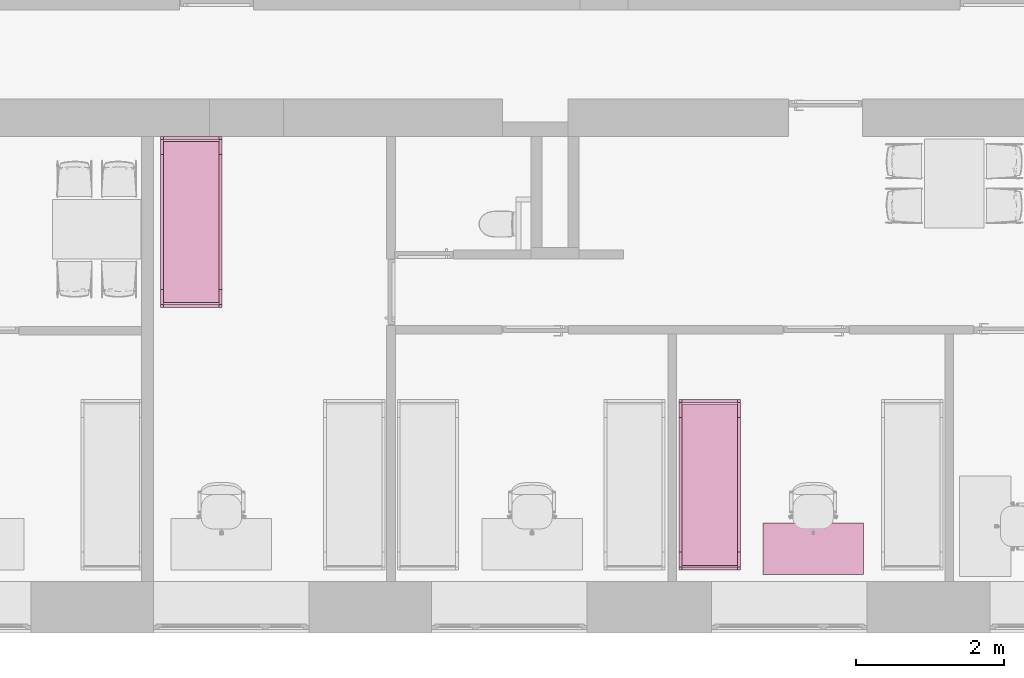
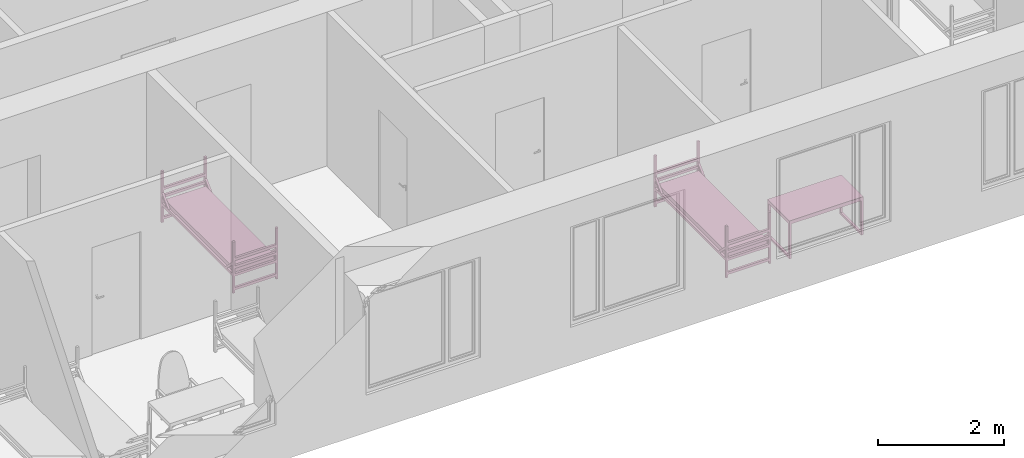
# One storey, part 30 of 46: 3 furnishings.
"""IFC2X3 building model written with IfcOpenShell, lengths in millimetres."""

from ifc_helpers import new_model, entity, si_unit, converted_unit, derived_unit, direction, frame, frame_2d, origin, place, context, subcontext, project, spatial, polyline, circle_curve, parameter, trimmed, segment, composite_curve, rectangle, outline, extrude, faceted_brep, source, transform, mapped, material, material_list, type_object, type_shapes, element, save


model = new_model("IFC2X3")

# Units and contexts
model_context = context("Model", 3, precision=0.01, world=origin(), true_north=direction((6.12303176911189e-17, 1.0)))
body_context = subcontext(model_context, "Body", "Model", "MODEL_VIEW")
ifc_project = project(units=[si_unit("LENGTHUNIT", "METRE", prefix="MILLI"), si_unit("AREAUNIT", "SQUARE_METRE"), si_unit("VOLUMEUNIT", "CUBIC_METRE"), converted_unit("PLANEANGLEUNIT", "DEGREE", entity("IfcRatioMeasure", 0.0174532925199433), si_unit("PLANEANGLEUNIT", "RADIAN"), dimensions=[0, 0, 0, 0, 0, 0, 0]), si_unit("MASSUNIT", "GRAM", prefix="KILO"), derived_unit("MASSDENSITYUNIT", [(si_unit("MASSUNIT", "GRAM", prefix="KILO"), 1), (si_unit("LENGTHUNIT", "METRE"), -3)]), si_unit("TIMEUNIT", "SECOND"), si_unit("FREQUENCYUNIT", "HERTZ"), si_unit("THERMODYNAMICTEMPERATUREUNIT", "DEGREE_CELSIUS"), derived_unit("THERMALTRANSMITTANCEUNIT", [(si_unit("MASSUNIT", "GRAM", prefix="KILO"), 1), (si_unit("THERMODYNAMICTEMPERATUREUNIT", "KELVIN"), -1), (si_unit("TIMEUNIT", "SECOND"), -3)]), derived_unit("VOLUMETRICFLOWRATEUNIT", [(si_unit("LENGTHUNIT", "METRE"), 3), (si_unit("TIMEUNIT", "SECOND"), -1)]), si_unit("ELECTRICCURRENTUNIT", "AMPERE"), si_unit("ELECTRICVOLTAGEUNIT", "VOLT"), si_unit("POWERUNIT", "WATT"), si_unit("FORCEUNIT", "NEWTON", prefix="KILO"), si_unit("ILLUMINANCEUNIT", "LUX"), si_unit("LUMINOUSFLUXUNIT", "LUMEN"), si_unit("LUMINOUSINTENSITYUNIT", "CANDELA"), derived_unit("USERDEFINED", [(si_unit("MASSUNIT", "GRAM", prefix="KILO"), -1), (si_unit("LENGTHUNIT", "METRE"), -2), (si_unit("TIMEUNIT", "SECOND"), 3), (si_unit("LUMINOUSFLUXUNIT", "LUMEN"), 1)]), derived_unit("LINEARVELOCITYUNIT", [(si_unit("LENGTHUNIT", "METRE"), 1), (si_unit("TIMEUNIT", "SECOND"), -1)]), si_unit("PRESSUREUNIT", "PASCAL"), derived_unit("USERDEFINED", [(si_unit("LENGTHUNIT", "METRE"), -2), (si_unit("MASSUNIT", "GRAM", prefix="KILO"), 1), (si_unit("TIMEUNIT", "SECOND"), -2)]), derived_unit("LINEARFORCEUNIT", [(si_unit("MASSUNIT", "GRAM", prefix="KILO"), 1), (si_unit("LENGTHUNIT", "METRE"), 1), (si_unit("TIMEUNIT", "SECOND"), -2), (si_unit("LENGTHUNIT", "METRE"), -1)]), derived_unit("PLANARFORCEUNIT", [(si_unit("MASSUNIT", "GRAM", prefix="KILO"), 1), (si_unit("LENGTHUNIT", "METRE"), 1), (si_unit("TIMEUNIT", "SECOND"), -2), (si_unit("LENGTHUNIT", "METRE"), -2)])], contexts=[model_context])

# Site, building, storey, space
site_placement = place(None, origin())
site = spatial("IfcSite", under=ifc_project, at=site_placement, Name="Default", CompositionType="ELEMENT")
building_placement = place(site_placement, origin())
building = spatial("IfcBuilding", under=site, at=building_placement, Name="SMA ARH", CompositionType="ELEMENT")
storey_placement = place(building_placement, frame((0.0, 0.0, 9910.0)))
storey = spatial("IfcBuildingStorey", under=building, at=storey_placement, Name="4 Korrus", CompositionType="ELEMENT", Elevation=9909.9999999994)
space_1_placement = place(storey_placement, origin())
space_1 = spatial("IfcSpace", under=storey, at=space_1_placement, Name="4-7", CompositionType="ELEMENT", InteriorOrExteriorSpace="INTERNAL")

# Furnishing
ifc_material_1 = material(Name="Madrats")
furniture_type_1 = type_object("IfcFurnitureType", Name="Kasarmu voodi ühekordne 2308x830:Kasarmu voodi ühekordne 2308x830", material=ifc_material_1)
shared_shape_1 = source(origin(), body_context, "Body", "SweptSolid", [
    extrude(rectangle(XDim=39.9999999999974, YDim=750.000000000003, at=frame_2d((-1.35003119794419e-13, -2.8421709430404e-14), x_axis=(1.0, 0.0))), frame((1.68638457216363, -1226.7969571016, 55.0), z_axis=(0.0, 0.0, 1.0), x_axis=(0.0, -1.0, 0.0)), (0.0, 0.0, 1.0), 49.9999999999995),
    extrude(rectangle(XDim=39.9999999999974, YDim=750.000000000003, at=frame_2d((-1.35003119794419e-13, -2.8421709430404e-14), x_axis=(1.0, 0.0))), frame((1.68638457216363, -1226.7969571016, 325.0), z_axis=(0.0, 0.0, 1.0), x_axis=(0.0, -1.0, 0.0)), (0.0, 0.0, 1.0), 49.9999999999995),
    extrude(rectangle(XDim=39.9999999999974, YDim=750.000000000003, at=frame_2d((-1.35003119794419e-13, -2.8421709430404e-14), x_axis=(1.0, 0.0))), frame((1.68638457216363, -1226.7969571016, 475.0), z_axis=(0.0, 0.0, 1.0), x_axis=(0.0, -1.0, 0.0)), (0.0, 0.0, 1.0), 49.9999999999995),
    extrude(rectangle(XDim=39.9999999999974, YDim=750.000000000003, at=frame_2d((-1.35003119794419e-13, -2.8421709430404e-14), x_axis=(1.0, 0.0))), frame((1.68638457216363, -1226.7969571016, 625.0), z_axis=(0.0, 0.0, 1.0), x_axis=(0.0, -1.0, 0.0)), (0.0, 0.0, 1.0), 50.0000000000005),
    extrude(rectangle(XDim=39.9999999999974, YDim=750.000000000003, at=frame_2d((1.35003119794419e-13, -2.8421709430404e-14), x_axis=(1.0, 0.0))), frame((1.68638457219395, 1041.2030428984, 55.0), z_axis=(0.0, 0.0, 1.0), x_axis=(0.0, -1.0, 0.0)), (0.0, 0.0, 1.0), 50.0000000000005),
    extrude(rectangle(XDim=39.9999999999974, YDim=750.000000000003, at=frame_2d((1.35003119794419e-13, -2.8421709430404e-14), x_axis=(1.0, 0.0))), frame((1.68638457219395, 1041.2030428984, 325.0), z_axis=(0.0, 0.0, 1.0), x_axis=(0.0, -1.0, 0.0)), (0.0, 0.0, 1.0), 50.0000000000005),
    extrude(rectangle(XDim=39.9999999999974, YDim=750.000000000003, at=frame_2d((1.35003119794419e-13, -2.8421709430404e-14), x_axis=(1.0, 0.0))), frame((1.68638457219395, 1041.2030428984, 475.0), z_axis=(0.0, 0.0, 1.0), x_axis=(0.0, -1.0, 0.0)), (0.0, 0.0, 1.0), 50.0000000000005),
    extrude(rectangle(XDim=39.9999999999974, YDim=750.000000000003, at=frame_2d((1.35003119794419e-13, -2.8421709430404e-14), x_axis=(1.0, 0.0))), frame((1.68638457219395, 1041.2030428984, 625.0), z_axis=(0.0, 0.0, 1.0), x_axis=(0.0, -1.0, 0.0)), (0.0, 0.0, 1.0), 49.9999999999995),
    extrude(outline(composite_curve([segment(trimmed(circle_curve(frame_2d((1085.0, -40.0), x_axis=(1.0, 0.0)), 10.0), [parameter(270.0)], [parameter(0.0)], True, "PARAMETER"), True, "CONTINUOUS"), segment(polyline([(1095.0, -40.0), (1095.0, 40.0)]), True, "CONTINUOUS"), segment(trimmed(circle_curve(frame_2d((1085.0, 40.0), x_axis=(1.0, 0.0)), 10.0), [parameter(0.0)], [parameter(90.0000000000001)], True, "PARAMETER"), True, "CONTINUOUS"), segment(polyline([(1085.0, 50.0), (-1085.0, 50.0)]), True, "CONTINUOUS"), segment(trimmed(circle_curve(frame_2d((-1085.0, 40.0), x_axis=(1.0, 0.0)), 10.0), [parameter(90.0000000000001)], [parameter(180.0)], True, "PARAMETER"), True, "CONTINUOUS"), segment(polyline([(-1095.0, 40.0), (-1095.0, -40.0)]), True, "CONTINUOUS"), segment(trimmed(circle_curve(frame_2d((-1085.0, -40.0), x_axis=(1.0, 0.0)), 10.0), [parameter(180.0)], [parameter(270.0)], True, "PARAMETER"), True, "CONTINUOUS"), segment(polyline([(-1085.0, -50.0), (1085.0, -50.0)]), True, "CONTINUOUS")], self_intersect=False)), frame((-373.313615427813, -92.7969571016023, 405.0), z_axis=(1.0, 0.0, 0.0), x_axis=(0.0, -1.0, 0.0)), (0.0, 0.0, 1.0), 750.000000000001),
    extrude(outline(polyline([(-1114.0, -100.0), (1114.0, -100.0), (1114.0, -50.0), (961.59199141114, -50.0), (1114.0, 100.0), (1114.0, 150.0), (910.789321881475, -50.0), (-910.789321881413, -50.0), (-1114.0, 150.0), (-1114.0, 100.0), (-961.591991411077, -50.0), (-1114.0, -50.0), (-1114.0, -100.0)])), frame((-413.313615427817, -92.7969571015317, 430.0), z_axis=(1.0, 0.0, 0.0), x_axis=(0.0, 1.0, 0.0)), (0.0, 0.0, 1.0), 39.9999999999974),
    extrude(outline(polyline([(-1114.0, -100.0), (1114.0, -100.0), (1114.0, -50.0), (961.591991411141, -50.0), (1114.0, 100.0), (1114.0, 150.0), (910.789321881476, -50.0), (-910.789321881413, -50.0), (-1114.0, 150.0), (-1114.0, 100.0), (-961.591991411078, -50.0), (-1114.0, -50.0), (-1114.0, -100.0)])), frame((376.686384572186, -92.796957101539, 430.0), z_axis=(1.0, 0.0, 0.0), x_axis=(0.0, 1.0, 0.0)), (0.0, 0.0, 1.0), 39.9999999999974),
    extrude(rectangle(XDim=39.9999999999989, YDim=39.9999999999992, at=frame_2d((-6.75015598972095e-14, 0.0), x_axis=(1.0, 0.0))), frame((396.686384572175, -1226.79695710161, 0.0), z_axis=(0.0, 0.0, 1.0), x_axis=(0.0, 1.0, 0.0)), (0.0, 0.0, 1.0), 995.0),
    extrude(rectangle(XDim=39.9999999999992, YDim=39.9999999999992, at=frame_2d((-1.35003119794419e-13, 0.0), x_axis=(1.0, 0.0))), frame((396.686384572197, 1041.20304289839, 0.0), z_axis=(0.0, 0.0, 1.0), x_axis=(0.0, 1.0, 0.0)), (0.0, 0.0, 1.0), 995.0),
    extrude(rectangle(XDim=40.0000000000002, YDim=39.9999999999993, at=frame_2d((-1.35003119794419e-13, 0.0), x_axis=(1.0, 0.0))), frame((-393.313615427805, 1041.2030428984, 0.0), z_axis=(0.0, 0.0, 1.0), x_axis=(0.0, 1.0, 0.0)), (0.0, 0.0, 1.0), 995.0),
    extrude(rectangle(XDim=39.9999999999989, YDim=39.9999999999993, at=frame_2d((-6.75015598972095e-14, 0.0), x_axis=(1.0, 0.0))), frame((-393.313615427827, -1226.7969571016, 0.0), z_axis=(0.0, 0.0, 1.0), x_axis=(0.0, 1.0, 0.0)), (0.0, 0.0, 1.0), 995.0),
])
type_shapes(furniture_type_1, [shared_shape_1])
furnishing_1_placement = place(space_1_placement, frame((23839.3136154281, 1396.79695710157, 0.0)))
element("IfcFurnishingElement", 1, at=furnishing_1_placement, inside=space_1, type_object=furniture_type_1, material=ifc_material_1, Name="Kasarmu voodi ühekordne 2308x830:Kasarmu voodi ühekordne 2308x830", ObjectType="Kasarmu voodi ühekordne 2308x830:Kasarmu voodi ühekordne 2308x830", context=body_context, shape_type="MappedRepresentation", body=[
    mapped(shared_shape_1, transform((0.0, 0.0, 0.0), scale=1.0)),
])

# Space
space_2_placement = place(storey_placement, origin())
space_2 = spatial("IfcSpace", under=storey, at=space_2_placement, Name="4-9", CompositionType="ELEMENT", InteriorOrExteriorSpace="INTERNAL")

# Furnishings
furnishing_2_placement = place(space_2_placement, frame((16831.1863845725, 4763.20304289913, 0.0), z_axis=(0.0, 0.0, 1.0), x_axis=(-1.0, 0.0, 0.0)))
element("IfcFurnishingElement", 2, at=furnishing_2_placement, inside=space_2, type_object=furniture_type_1, material=ifc_material_1, Name="Kasarmu voodi ühekordne 2308x830:Kasarmu voodi ühekordne 2308x830", ObjectType="Kasarmu voodi ühekordne 2308x830:Kasarmu voodi ühekordne 2308x830", context=body_context, shape_type="MappedRepresentation", body=[
    mapped(shared_shape_1, transform((0.0, 0.0, 0.0), scale=1.0)),
])
ifc_material_2 = material(Name="<Unnamed>")
ifc_material_list = material_list([ifc_material_2, ifc_material_2])
furniture_type_2 = type_object("IfcFurnitureType", Name="kirjutuslaud 1360x700mm:kirjutuslaud 1360x700mm", material=ifc_material_list)
shared_shape_2 = source(origin(), body_context, "Body", "Brep", [
    faceted_brep([(680.0, -350.0, 720.0), (680.0, 350.0, 720.0), (680.0, 350.0, 750.0), (680.0, -350.0, 750.0), (-680.0, -350.0, 720.0), (-680.0, -350.0, 750.0), (-680.0, 350.0, 750.0), (-680.0, 350.0, 720.0)], [[[0, 1, 2, 3]], [[4, 5, 6, 7]], [[1, 0, 4, 7]], [[2, 1, 7, 6]], [[3, 2, 6, 5]], [[0, 3, 5, 4]]]),
    faceted_brep([(-640.0, -310.0, 680.0), (-640.0, 310.0, 680.0), (-640.0, 310.0, 720.0), (-640.0, -310.0, 720.0), (-680.0, -350.0, 720.0), (-680.0, 350.0, 720.0), (-680.0, 350.0, 10.0), (-680.0, -350.0, 10.0), (-680.0, 310.0, 680.0), (-680.0, -310.0, 680.0), (-680.0, -310.0, 50.0), (-680.0, 310.0, 50.0), (-640.0, -350.0, 10.0), (-640.0, -350.0, 680.0), (640.0, -350.0, 680.0), (640.0, -350.0, 10.0), (680.0, -350.0, 10.0), (680.0, -350.0, 720.0), (-640.0, 350.0, 10.0), (680.0, 350.0, 720.0), (680.0, 350.0, 10.0), (640.0, 350.0, 10.0), (640.0, 350.0, 680.0), (-640.0, 350.0, 680.0), (640.0, 310.0, 720.0), (640.0, -310.0, 720.0), (-640.0, 310.0, 50.0), (-640.0, -310.0, 50.0), (640.0, -310.0, 680.0), (640.0, 310.0, 680.0), (680.0, 310.0, 680.0), (680.0, 310.0, 50.0), (680.0, -310.0, 50.0), (680.0, -310.0, 680.0), (640.0, -310.0, 50.0), (640.0, 310.0, 50.0)], [[[0, 1, 2, 3]], [[4, 5, 6, 7], [8, 9, 10, 11]], [[4, 7, 12, 13, 14, 15, 16, 17]], [[18, 12, 7, 6]], [[6, 5, 19, 20, 21, 22, 23, 18]], [[19, 5, 4, 17], [2, 24, 25, 3]], [[26, 1, 8, 11]], [[27, 26, 11, 10]], [[0, 27, 10, 9]], [[1, 0, 9, 8]], [[14, 13, 0, 28]], [[24, 2, 1, 29]], [[3, 25, 28, 0]], [[17, 16, 20, 19], [30, 31, 32, 33]], [[21, 15, 14, 28, 34, 35, 29, 22]], [[20, 16, 15, 21]], [[31, 30, 29, 35]], [[32, 31, 35, 34]], [[33, 32, 34, 28]], [[30, 33, 28, 29]], [[29, 28, 25, 24]], [[29, 1, 23, 22]], [[12, 18, 23, 1, 26, 27, 0, 13]]]),
    faceted_brep([(-663.729456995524, -270.466136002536, 0.0), (-659.847171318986, -269.955023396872, 0.0), (-655.964885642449, -270.466136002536, 0.0), (-652.347171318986, -271.964642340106, 0.0), (-649.240569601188, -274.348421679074, 0.0), (-646.85679026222, -277.455023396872, 0.0), (-645.35828392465, -281.072737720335, 0.0), (-644.847171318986, -284.955023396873, 0.0), (-645.35828392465, -288.83730907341, 0.0), (-646.85679026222, -292.455023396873, 0.0), (-649.240569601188, -295.561625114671, 0.0), (-652.347171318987, -297.945404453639, 0.0), (-655.964885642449, -299.443910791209, 0.0), (-659.847171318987, -299.955023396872, 0.0), (-663.729456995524, -299.443910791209, 0.0), (-667.347171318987, -297.945404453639, 0.0), (-670.453773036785, -295.561625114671, 0.0), (-672.837552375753, -292.455023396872, 0.0), (-674.336058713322, -288.83730907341, 0.0), (-674.847171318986, -284.955023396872, 0.0), (-674.336058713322, -281.072737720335, 0.0), (-672.837552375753, -277.455023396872, 0.0), (-670.453773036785, -274.348421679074, 0.0), (-667.347171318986, -271.964642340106, 0.0), (-655.964885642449, -299.443910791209, 10.0), (-652.347171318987, -297.945404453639, 10.0), (-649.240569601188, -295.561625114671, 10.0), (-646.85679026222, -292.455023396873, 10.0), (-645.35828392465, -288.83730907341, 10.0), (-644.847171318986, -284.955023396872, 10.0), (-645.35828392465, -281.072737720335, 10.0), (-646.85679026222, -277.455023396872, 10.0), (-649.240569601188, -274.348421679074, 10.0), (-652.347171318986, -271.964642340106, 10.0), (-655.964885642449, -270.466136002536, 10.0), (-659.847171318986, -269.955023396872, 10.0), (-663.729456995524, -270.466136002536, 10.0), (-667.347171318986, -271.964642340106, 10.0), (-670.453773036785, -274.348421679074, 10.0), (-672.837552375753, -277.455023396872, 10.0), (-674.336058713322, -281.072737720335, 10.0), (-674.847171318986, -284.955023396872, 10.0), (-674.336058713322, -288.83730907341, 10.0), (-672.837552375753, -292.455023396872, 10.0), (-670.453773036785, -295.561625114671, 10.0), (-667.347171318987, -297.945404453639, 10.0), (-663.729456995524, -299.443910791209, 10.0), (-659.847171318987, -299.955023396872, 10.0)], [[[0, 1, 2, 3, 4, 5, 6, 7, 8, 9, 10, 11, 12, 13, 14, 15, 16, 17, 18, 19, 20, 21, 22, 23]], [[24, 25, 26, 27, 28, 29, 30, 31, 32, 33, 34, 35, 36, 37, 38, 39, 40, 41, 42, 43, 44, 45, 46, 47]], [[18, 42, 41, 19]], [[17, 43, 42, 18]], [[45, 44, 16, 15]], [[17, 16, 44, 43]], [[46, 45, 15, 14]], [[47, 46, 14, 13]], [[12, 24, 47, 13]], [[11, 25, 24, 12]], [[27, 26, 10, 9]], [[11, 10, 26, 25]], [[28, 27, 9, 8]], [[29, 28, 8, 7]], [[6, 30, 29, 7]], [[5, 31, 30, 6]], [[33, 32, 4, 3]], [[5, 4, 32, 31]], [[34, 33, 3, 2]], [[35, 34, 2, 1]], [[0, 36, 35, 1]], [[23, 37, 36, 0]], [[39, 38, 22, 21]], [[23, 22, 38, 37]], [[40, 39, 21, 20]], [[41, 40, 20, 19]]]),
    faceted_brep([(-655.964885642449, 270.466136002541, 10.0), (-652.347171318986, 271.964642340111, 10.0), (-649.240569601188, 274.348421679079, 10.0), (-646.85679026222, 277.455023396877, 10.0), (-645.35828392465, 281.07273772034, 10.0), (-644.847171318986, 284.955023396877, 10.0), (-645.35828392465, 288.837309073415, 10.0), (-646.85679026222, 292.455023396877, 10.0), (-649.240569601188, 295.561625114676, 10.0), (-652.347171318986, 297.945404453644, 10.0), (-655.964885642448, 299.443910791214, 10.0), (-659.847171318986, 299.955023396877, 10.0), (-663.729456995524, 299.443910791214, 10.0), (-667.347171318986, 297.945404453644, 10.0), (-670.453773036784, 295.561625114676, 10.0), (-672.837552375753, 292.455023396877, 10.0), (-674.336058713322, 288.837309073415, 10.0), (-674.847171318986, 284.955023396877, 10.0), (-674.336058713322, 281.07273772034, 10.0), (-672.837552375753, 277.455023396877, 10.0), (-670.453773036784, 274.348421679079, 10.0), (-667.347171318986, 271.964642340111, 10.0), (-663.729456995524, 270.466136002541, 10.0), (-659.847171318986, 269.955023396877, 10.0), (-655.964885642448, 299.443910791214, 0.0), (-652.347171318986, 297.945404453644, 0.0), (-649.240569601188, 295.561625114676, 0.0), (-646.85679026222, 292.455023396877, 0.0), (-645.35828392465, 288.837309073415, 0.0), (-644.847171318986, 284.955023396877, 0.0), (-645.35828392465, 281.07273772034, 0.0), (-646.85679026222, 277.455023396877, 0.0), (-649.240569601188, 274.348421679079, 0.0), (-652.347171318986, 271.964642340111, 0.0), (-655.964885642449, 270.466136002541, 0.0), (-659.847171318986, 269.955023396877, 0.0), (-663.729456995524, 270.466136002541, 0.0), (-667.347171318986, 271.964642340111, 0.0), (-670.453773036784, 274.348421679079, 0.0), (-672.837552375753, 277.455023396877, 0.0), (-674.336058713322, 281.07273772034, 0.0), (-674.847171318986, 284.955023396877, 0.0), (-674.336058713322, 288.837309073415, 0.0), (-672.837552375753, 292.455023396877, 0.0), (-670.453773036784, 295.561625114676, 0.0), (-667.347171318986, 297.945404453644, 0.0), (-663.729456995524, 299.443910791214, 0.0), (-659.847171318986, 299.955023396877, 0.0)], [[[0, 1, 2, 3, 4, 5, 6, 7, 8, 9, 10, 11, 12, 13, 14, 15, 16, 17, 18, 19, 20, 21, 22, 23]], [[24, 25, 26, 27, 28, 29, 30, 31, 32, 33, 34, 35, 36, 37, 38, 39, 40, 41, 42, 43, 44, 45, 46, 47]], [[40, 18, 17, 41]], [[39, 19, 18, 40]], [[21, 20, 38, 37]], [[39, 38, 20, 19]], [[22, 21, 37, 36]], [[23, 22, 36, 35]], [[34, 0, 23, 35]], [[33, 1, 0, 34]], [[3, 2, 32, 31]], [[33, 32, 2, 1]], [[4, 3, 31, 30]], [[5, 4, 30, 29]], [[28, 6, 5, 29]], [[27, 7, 6, 28]], [[9, 8, 26, 25]], [[27, 26, 8, 7]], [[10, 9, 25, 24]], [[11, 10, 24, 47]], [[46, 12, 11, 47]], [[45, 13, 12, 46]], [[15, 14, 44, 43]], [[45, 44, 14, 13]], [[16, 15, 43, 42]], [[17, 16, 42, 41]]]),
    faceted_brep([(656.270543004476, -270.466136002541, 0.0), (660.152828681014, -269.955023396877, 0.0), (664.035114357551, -270.466136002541, 0.0), (667.652828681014, -271.96464234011, 0.0), (670.759430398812, -274.348421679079, 0.0), (673.14320973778, -277.455023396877, 0.0), (674.64171607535, -281.072737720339, 0.0), (675.152828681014, -284.955023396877, 0.0), (674.64171607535, -288.837309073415, 0.0), (673.14320973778, -292.455023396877, 0.0), (670.759430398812, -295.561625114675, 0.0), (667.652828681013, -297.945404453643, 0.0), (664.035114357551, -299.443910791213, 0.0), (660.152828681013, -299.955023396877, 0.0), (656.270543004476, -299.443910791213, 0.0), (652.652828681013, -297.945404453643, 0.0), (649.546226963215, -295.561625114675, 0.0), (647.162447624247, -292.455023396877, 0.0), (645.663941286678, -288.837309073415, 0.0), (645.152828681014, -284.955023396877, 0.0), (645.663941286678, -281.072737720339, 0.0), (647.162447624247, -277.455023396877, 0.0), (649.546226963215, -274.348421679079, 0.0), (652.652828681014, -271.96464234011, 0.0), (664.035114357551, -299.443910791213, 10.0), (667.652828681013, -297.945404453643, 10.0), (670.759430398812, -295.561625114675, 10.0), (673.14320973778, -292.455023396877, 10.0), (674.64171607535, -288.837309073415, 10.0), (675.152828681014, -284.955023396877, 10.0), (674.64171607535, -281.072737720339, 10.0), (673.14320973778, -277.455023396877, 10.0), (670.759430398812, -274.348421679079, 10.0), (667.652828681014, -271.96464234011, 10.0), (664.035114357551, -270.466136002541, 10.0), (660.152828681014, -269.955023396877, 10.0), (656.270543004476, -270.466136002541, 10.0), (652.652828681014, -271.96464234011, 10.0), (649.546226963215, -274.348421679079, 10.0), (647.162447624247, -277.455023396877, 10.0), (645.663941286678, -281.072737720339, 10.0), (645.152828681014, -284.955023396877, 10.0), (645.663941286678, -288.837309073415, 10.0), (647.162447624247, -292.455023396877, 10.0), (649.546226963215, -295.561625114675, 10.0), (652.652828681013, -297.945404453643, 10.0), (656.270543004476, -299.443910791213, 10.0), (660.152828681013, -299.955023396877, 10.0)], [[[0, 1, 2, 3, 4, 5, 6, 7, 8, 9, 10, 11, 12, 13, 14, 15, 16, 17, 18, 19, 20, 21, 22, 23]], [[24, 25, 26, 27, 28, 29, 30, 31, 32, 33, 34, 35, 36, 37, 38, 39, 40, 41, 42, 43, 44, 45, 46, 47]], [[18, 42, 41, 19]], [[17, 43, 42, 18]], [[45, 44, 16, 15]], [[17, 16, 44, 43]], [[46, 45, 15, 14]], [[47, 46, 14, 13]], [[12, 24, 47, 13]], [[11, 25, 24, 12]], [[27, 26, 10, 9]], [[11, 10, 26, 25]], [[28, 27, 9, 8]], [[29, 28, 8, 7]], [[6, 30, 29, 7]], [[5, 31, 30, 6]], [[33, 32, 4, 3]], [[5, 4, 32, 31]], [[34, 33, 3, 2]], [[35, 34, 2, 1]], [[0, 36, 35, 1]], [[23, 37, 36, 0]], [[39, 38, 22, 21]], [[23, 22, 38, 37]], [[40, 39, 21, 20]], [[41, 40, 20, 19]]]),
    faceted_brep([(664.035114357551, 270.466136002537, 10.0), (667.652828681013, 271.964642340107, 10.0), (670.759430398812, 274.348421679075, 10.0), (673.14320973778, 277.455023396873, 10.0), (674.64171607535, 281.072737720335, 10.0), (675.152828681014, 284.955023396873, 10.0), (674.64171607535, 288.837309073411, 10.0), (673.14320973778, 292.455023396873, 10.0), (670.759430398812, 295.561625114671, 10.0), (667.652828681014, 297.94540445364, 10.0), (664.035114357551, 299.443910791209, 10.0), (660.152828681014, 299.955023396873, 10.0), (656.270543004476, 299.443910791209, 10.0), (652.652828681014, 297.94540445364, 10.0), (649.546226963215, 295.561625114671, 10.0), (647.162447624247, 292.455023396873, 10.0), (645.663941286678, 288.837309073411, 10.0), (645.152828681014, 284.955023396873, 10.0), (645.663941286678, 281.072737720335, 10.0), (647.162447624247, 277.455023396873, 10.0), (649.546226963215, 274.348421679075, 10.0), (652.652828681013, 271.964642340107, 10.0), (656.270543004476, 270.466136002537, 10.0), (660.152828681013, 269.955023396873, 10.0), (664.035114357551, 299.443910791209, 0.0), (667.652828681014, 297.94540445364, 0.0), (670.759430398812, 295.561625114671, 0.0), (673.14320973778, 292.455023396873, 0.0), (674.64171607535, 288.837309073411, 0.0), (675.152828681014, 284.955023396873, 0.0), (674.64171607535, 281.072737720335, 0.0), (673.14320973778, 277.455023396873, 0.0), (670.759430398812, 274.348421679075, 0.0), (667.652828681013, 271.964642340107, 0.0), (664.035114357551, 270.466136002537, 0.0), (660.152828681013, 269.955023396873, 0.0), (656.270543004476, 270.466136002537, 0.0), (652.652828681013, 271.964642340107, 0.0), (649.546226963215, 274.348421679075, 0.0), (647.162447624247, 277.455023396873, 0.0), (645.663941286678, 281.072737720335, 0.0), (645.152828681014, 284.955023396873, 0.0), (645.663941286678, 288.837309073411, 0.0), (647.162447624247, 292.455023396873, 0.0), (649.546226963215, 295.561625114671, 0.0), (652.652828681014, 297.94540445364, 0.0), (656.270543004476, 299.443910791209, 0.0), (660.152828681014, 299.955023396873, 0.0)], [[[0, 1, 2, 3, 4, 5, 6, 7, 8, 9, 10, 11, 12, 13, 14, 15, 16, 17, 18, 19, 20, 21, 22, 23]], [[24, 25, 26, 27, 28, 29, 30, 31, 32, 33, 34, 35, 36, 37, 38, 39, 40, 41, 42, 43, 44, 45, 46, 47]], [[40, 18, 17, 41]], [[39, 19, 18, 40]], [[21, 20, 38, 37]], [[39, 38, 20, 19]], [[22, 21, 37, 36]], [[23, 22, 36, 35]], [[34, 0, 23, 35]], [[33, 1, 0, 34]], [[3, 2, 32, 31]], [[33, 32, 2, 1]], [[4, 3, 31, 30]], [[5, 4, 30, 29]], [[28, 6, 5, 29]], [[27, 7, 6, 28]], [[9, 8, 26, 25]], [[27, 26, 8, 7]], [[10, 9, 25, 24]], [[11, 10, 24, 47]], [[46, 12, 11, 47]], [[45, 13, 12, 46]], [[15, 14, 44, 43]], [[45, 44, 14, 13]], [[16, 15, 43, 42]], [[17, 16, 42, 41]]]),
])
type_shapes(furniture_type_2, [shared_shape_2])
furnishing_3_placement = place(space_1_placement, frame((25237.0, 440.0, 0.0)))
element("IfcFurnishingElement", 3, at=furnishing_3_placement, inside=space_1, type_object=furniture_type_2, Name="kirjutuslaud 1360x700mm:kirjutuslaud 1360x700mm", ObjectType="kirjutuslaud 1360x700mm:kirjutuslaud 1360x700mm", context=body_context, shape_type="MappedRepresentation", body=[
    mapped(shared_shape_2, transform((0.0, 0.0, 0.0), scale=1.0)),
])

save(model, "model.ifc")
